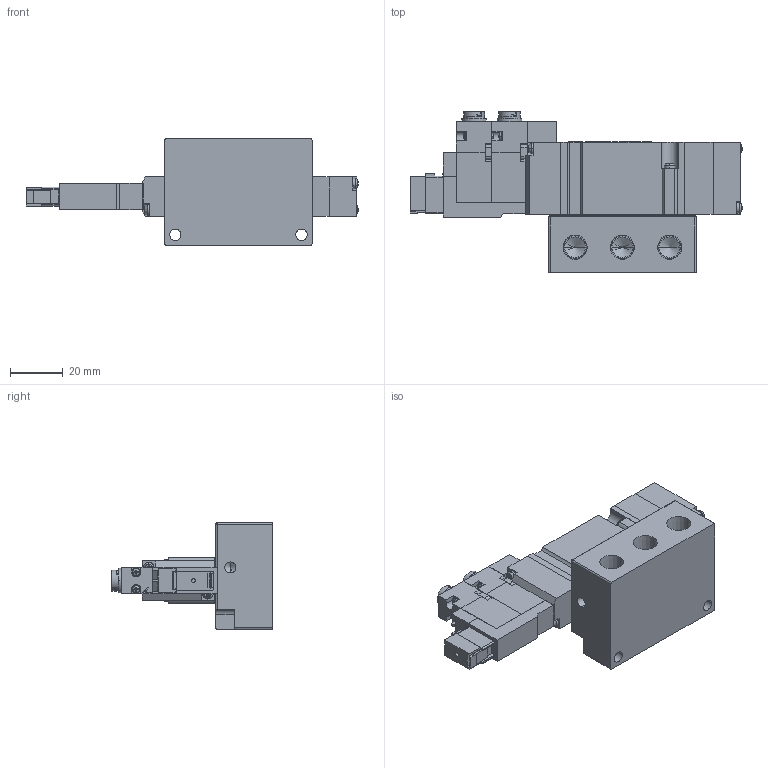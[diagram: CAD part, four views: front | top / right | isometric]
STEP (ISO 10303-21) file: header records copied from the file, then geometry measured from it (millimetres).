
FILE_DESCRIPTION (( 'STEP AP203' ), '1' );
FILE_NAME ('A12GD(E¡BO)35#-#-#-E.STEP', '2016-02-04T02:23:39', ( 'Sam Lin' ), ( '' ), 'SwSTEP 2.0', 'SolidWorks 2013', '' );
FILE_SCHEMA (( 'CONFIG_CONTROL_DESIGN' ));
Length unit declared in the file: metre
Products named in the file (19): A05RS25-6; ISO 7045 - M2.5 x 8-D4; A12P墊片; DC24-A05F-1; mark-ADEX-A12; A12P-1; DC24-A05G-3; A12G-1; A12P底座; DC24-A05F-2; A12G-3; A12P-2; A05FS25-6; A05RS25-3; A12G-4; A05RS25-4; A12GD(E、O)35#-#-#-E; ISO 7045 - M1.6 x 10; A05RS25-5
Assembly tree (32 placements, depth 2):
  A12GD(E、O)35#-#-#-E
    A12P墊片
    A12P-1
    A12P底座
    A12P-2
    ISO 7045 - M2.5 x 8-D4  x6
    mark-ADEX-A12
    A12G-1
    A12G-3
    A05RS25-3  x2
    A05RS25-4  x2
    ISO 7045 - M1.6 x 10  x4
    A05RS25-5  x2
    A05RS25-6  x4
    DC24-A05F-1
    DC24-A05G-3
    DC24-A05F-2
    A05FS25-6
    A12G-4
Bounding box: 126.3 x 61.1 x 40.5 mm (x, y, z)
Volume: 89450.2 mm3; surface area: 33032.5 mm2
Topology: 40 solids, 40 shells, 1076 faces, 2740 edges, 1747 vertices
Faces by surface type: plane 698, cylinder 190, cone 114, bspline 74
Entity records: 22447 total; most frequent: CARTESIAN_POINT 5316, ORIENTED_EDGE 3054, DIRECTION 3007, EDGE_CURVE 1527, LINE 1103, VECTOR 1103, VERTEX_POINT 1004, AXIS2_PLACEMENT_3D 952
